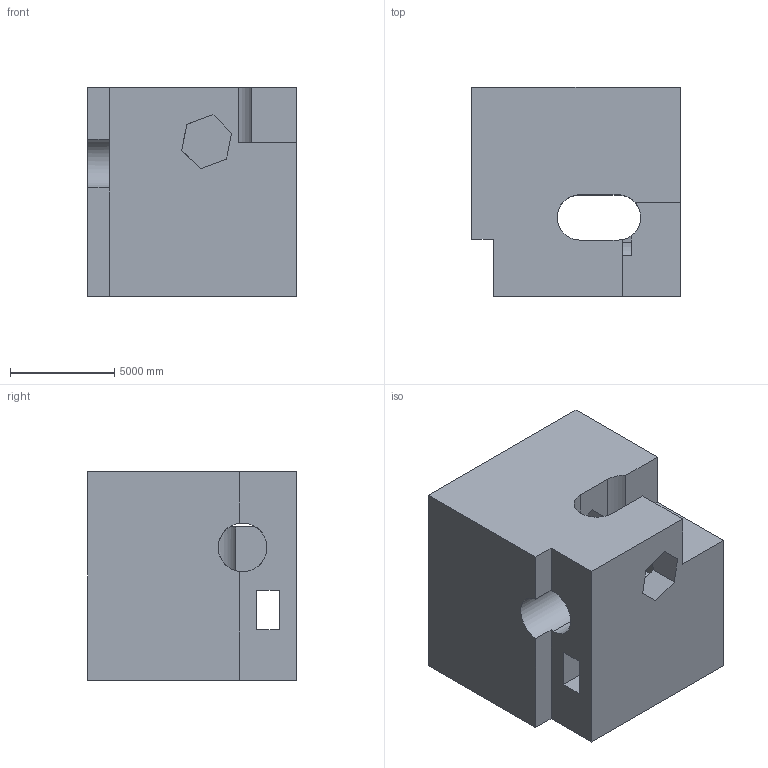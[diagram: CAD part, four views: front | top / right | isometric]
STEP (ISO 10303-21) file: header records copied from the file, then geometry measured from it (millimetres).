
FILE_DESCRIPTION (( 'STEP AP203' ), '1' );
FILE_NAME ('662.STEP', '2022-07-29T12:22:45', ( 'user' ), ( '' ), 'SwSTEP 2.0', 'SolidWorks 2021', '' );
FILE_SCHEMA (( 'CONFIG_CONTROL_DESIGN' ));
Length unit declared in the file: centimetre
Products named in the file (1): 662
Bounding box: 10000 x 10000 x 10000 mm (x, y, z)
Volume: 801058333255.2 mm3; surface area: 780784444.2 mm2
Topology: 1 solids, 1 shells, 46 faces, 138 edges, 92 vertices
Faces by surface type: plane 35, cylinder 11
Entity records: 1843 total; most frequent: CARTESIAN_POINT 520, ORIENTED_EDGE 276, DIRECTION 242, EDGE_CURVE 138, VECTOR 100, LINE 100, VERTEX_POINT 92, AXIS2_PLACEMENT_3D 71
